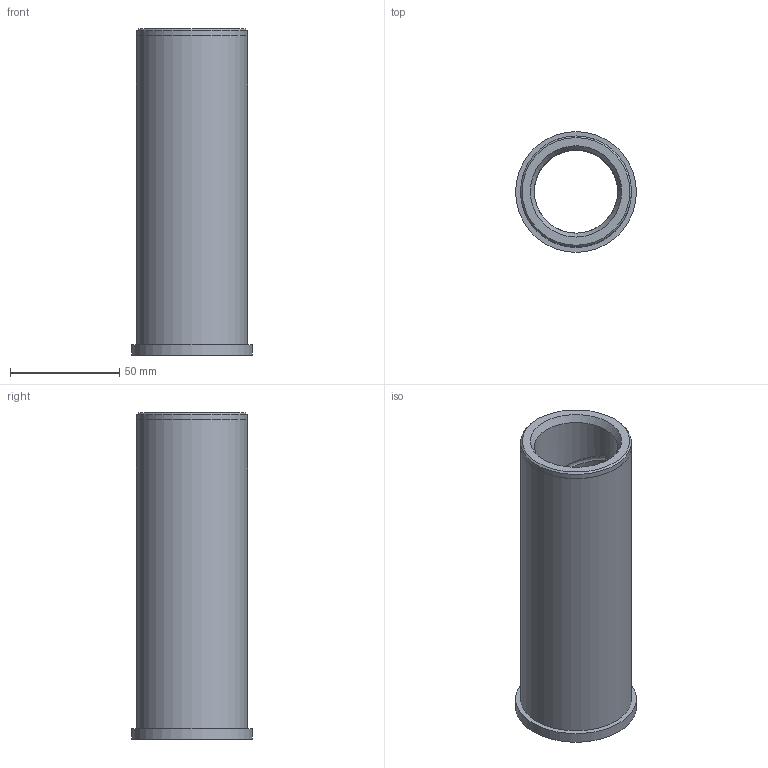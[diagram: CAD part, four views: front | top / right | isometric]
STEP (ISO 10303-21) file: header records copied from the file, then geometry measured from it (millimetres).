
FILE_DESCRIPTION (( 'STEP AP214' ), '1' );
FILE_NAME ('SBF 12-57.step', '2023-05-30T15:49:19', ( '' ), ( '' ), 'SwSTEP 2.0', 'SolidWorks 2017', '' );
FILE_SCHEMA (( 'AUTOMOTIVE_DESIGN' ));
Length unit declared in the file: inch
Products named in the file (1): SBF 12-57
Bounding box: 55.3 x 55.3 x 149.22 mm (x, y, z)
Volume: 133186.7 mm3; surface area: 44130.6 mm2
Topology: 1 solids, 1 shells, 23 faces, 49 edges, 30 vertices
Faces by surface type: cylinder 8, bspline 8, plane 4, cone 3
Full cylindrical faces by diameter (mm): 38.113 x2, 50.775 x1, 50.813 x1, 55.296 x1
Entity records: 4634 total; most frequent: CARTESIAN_POINT 4223, ORIENTED_EDGE 82, DIRECTION 58, EDGE_CURVE 41, EDGE_LOOP 35, VERTEX_POINT 30, AXIS2_PLACEMENT_3D 29, FACE_OUTER_BOUND 28
